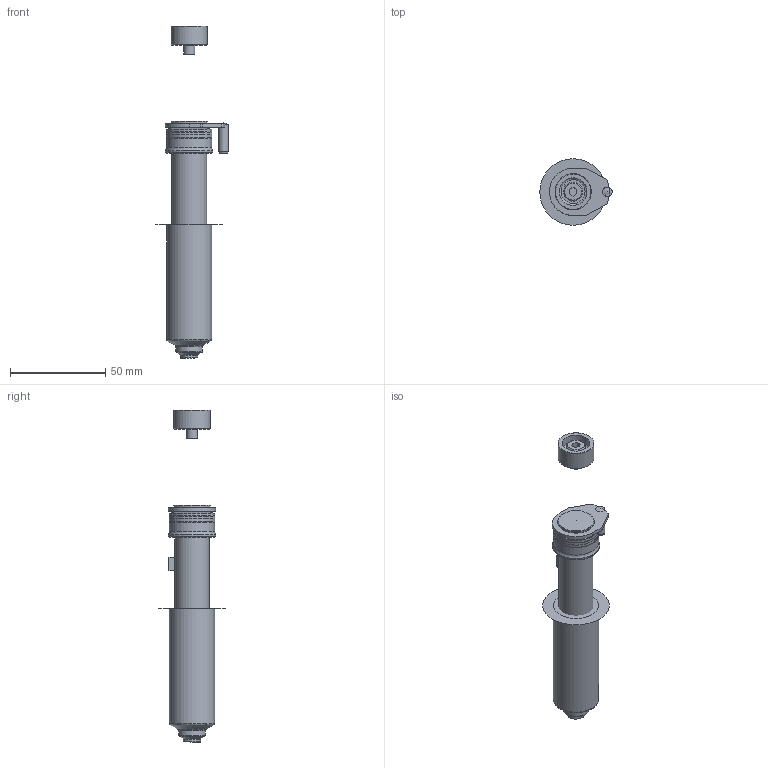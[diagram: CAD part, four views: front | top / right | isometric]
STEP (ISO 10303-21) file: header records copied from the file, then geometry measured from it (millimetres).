
FILE_DESCRIPTION(/* description */ (''),/* implementation_level */ '2;1');
FILE_NAME(/* name */ 'U500 CAP HT-U.stp',/* time_stamp */ '2021-12-23T13:06:10+08:00',/* author */ (''),/* organization */ (''),/* preprocessor_version */ 'ST-DEVELOPER v16',/* originating_system */ 'SIEMENS PLM Software NX 11.0',/* authorisation */ '');
FILE_SCHEMA (('AUTOMOTIVE_DESIGN { 1 0 10303 214 3 1 1 1 }'));
Length unit declared in the file: millimetre
Products named in the file (19): 3D_EXPORT_3D_ASSY_11312898_0_id6_x_t; 3D_EXPORT_3D_ASSY_11312898_0_id11_x_t; 3D_EXPORT_3D_ASSY_11312898_0_id20_x_t; 3D_EXPORT_3D_ASSY_11312898_0_id25_x_t; 3D_EXPORT_3D_ASSY_11312898_0_id30_x_t; 3D_EXPORT_3D_ASSY_11312898_0_id35_x_t; 3D_EXPORT_3D_ASSY_11312898_0_id40_x_t; 3D_EXPORT_3D_ASSY_11312898_0_id45_x_t; 3D_EXPORT_3D_ASSY_11312898_0_id50_x_t; 3D_EXPORT_3D_ASSY_11312898_0_id55_x_t; 3D_EXPORT_3D_ASSY_11312898_0_id60_x_t; 3D_EXPORT_3D_ASSY_11312898_0_id65_x_t; 3D_EXPORT_3D_ASSY_11312898_0_id72_x_t; 3D_EXPORT_3D_ASSY_11312898_0_id77_x_t; 3D_EXPORT_3D_ASSY_11312898_0_id82_x_t; 3D_EXPORT_3D_ASSY_11312898_0_id87_x_t; 3D_EXPORT_3D_ASSY_11312898_0_id92_x_t; 3D_EXPORT_3D_ASSY_11312898_0_id97_x_t; 3D_EXPORT_3D_ASSY_11312898_0_x_t
Assembly tree (21 placements, depth 2):
  3D_EXPORT_3D_ASSY_11312898_0_x_t
    3D_EXPORT_3D_ASSY_11312898_0_id97_x_t
    3D_EXPORT_3D_ASSY_11312898_0_id92_x_t
    3D_EXPORT_3D_ASSY_11312898_0_id87_x_t
    3D_EXPORT_3D_ASSY_11312898_0_id82_x_t
    3D_EXPORT_3D_ASSY_11312898_0_id77_x_t
    3D_EXPORT_3D_ASSY_11312898_0_id72_x_t
    3D_EXPORT_3D_ASSY_11312898_0_id65_x_t  x2
    3D_EXPORT_3D_ASSY_11312898_0_id60_x_t
    3D_EXPORT_3D_ASSY_11312898_0_id55_x_t
    3D_EXPORT_3D_ASSY_11312898_0_id50_x_t
    3D_EXPORT_3D_ASSY_11312898_0_id45_x_t
    3D_EXPORT_3D_ASSY_11312898_0_id40_x_t
    3D_EXPORT_3D_ASSY_11312898_0_id35_x_t
    3D_EXPORT_3D_ASSY_11312898_0_id30_x_t
    3D_EXPORT_3D_ASSY_11312898_0_id25_x_t
    3D_EXPORT_3D_ASSY_11312898_0_id20_x_t
    3D_EXPORT_3D_ASSY_11312898_0_id11_x_t  x3
    3D_EXPORT_3D_ASSY_11312898_0_id6_x_t
Bounding box: 38 x 35 x 174.61 mm (x, y, z)
Volume: 69950.2 mm3; surface area: 32926.4 mm2
Topology: 21 solids, 21 shells, 280 faces, 570 edges, 348 vertices
Faces by surface type: plane 111, cylinder 86, cone 29, torus 28, bspline 24, sphere 2
Full cylindrical faces by diameter (mm): 1 x2, 5 x1, 5.5 x1, 5.795 x1, 6 x1, 7.4 x1, 7.48 x1, 7.5 x1, 8.2 x1, 8.944 x1, 9 x2, 9.005 x1, 10 x1, 11.86 x1, 12.5 x1, 12.66 x1, 12.715 x2, 12.735 x1, 12.76 x1, 13.005 x1, 13.23 x1, 13.725 x2, 14 x1, 14.5 x1, 16.307 x1, 17.125 x2, 17.62 x1, 18.4 x1, 18.47 x1, 19 x1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
Entity records: 9257 total; most frequent: CARTESIAN_POINT 1977, DIRECTION 1060, ORIENTED_EDGE 856, AXIS2_PLACEMENT_3D 451, EDGE_CURVE 428, EDGE_LOOP 378, VERTEX_POINT 309, PRESENTATION_STYLE_ASSIGNMENT 278
